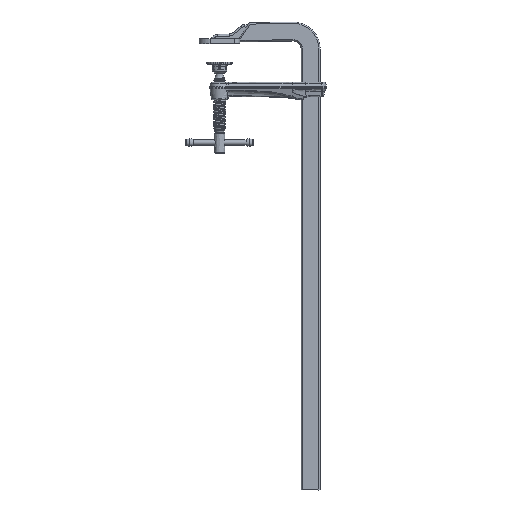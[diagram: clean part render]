
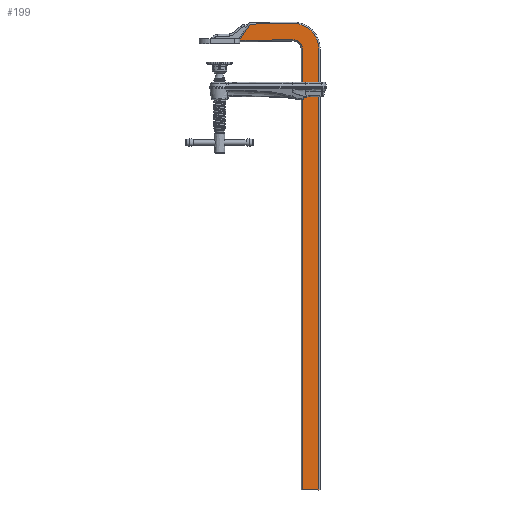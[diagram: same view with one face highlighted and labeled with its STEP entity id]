
A CAD part, front view. The second image highlights one B-rep face of the part: STEP entity #199.
In plain terms, the highlighted free-form (B-spline) face has degree [1, 1] with [2, 2] control points.
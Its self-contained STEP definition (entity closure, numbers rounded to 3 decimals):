
#123=CARTESIAN_POINT('',(-106.522,-5.5,-791.259));
#124=CARTESIAN_POINT('',(-106.522,-5.5,58.935));
#125=CARTESIAN_POINT('',(323.015,-5.5,-791.259));
#126=CARTESIAN_POINT('',(323.015,-5.5,58.935));
#127=B_SPLINE_SURFACE_WITH_KNOTS('',1,1,((#123,#124),(#125,#126)),.PLANE_SURF.,.F.,.F.,.U.,(2,2),(2,2),(0.,1.),(-0.979,1.),.UNSPECIFIED.);
#128=CARTESIAN_POINT('',(-86.998,-5.5,13.411));
#129=VERTEX_POINT('',#128);
#130=CARTESIAN_POINT('',(-8.93,-5.5,13.411));
#131=VERTEX_POINT('',#130);
#132=CARTESIAN_POINT('',(-86.998,-5.5,13.411));
#133=CARTESIAN_POINT('',(-8.93,-5.5,13.411));
#134=B_SPLINE_CURVE_WITH_KNOTS('',1,(#132,#133),.POLYLINE_FORM.,.F.,.U.,(2,2),(0.,1.),.UNSPECIFIED.);
#135=EDGE_CURVE('',#129,#131,#134,.T.);
#136=ORIENTED_EDGE('',*,*,#135,.T.);
#137=CARTESIAN_POINT('',(5.068,-5.5,-0.834));
#138=VERTEX_POINT('',#137);
#139=CARTESIAN_POINT('',(-8.93,-5.5,13.411));
#140=CARTESIAN_POINT('',(-3.059,-5.5,13.411));
#141=CARTESIAN_POINT('',(1.056,-5.5,9.224));
#142=CARTESIAN_POINT('',(5.171,-5.5,5.036));
#143=CARTESIAN_POINT('',(5.068,-5.5,-0.834));
#144=(BOUNDED_CURVE()B_SPLINE_CURVE(2,(#139,#140,#141,#142,#143),.CIRCULAR_ARC.,.F.,.U.)B_SPLINE_CURVE_WITH_KNOTS((3,2,3),(0.,0.5,1.),.UNSPECIFIED.)CURVE()GEOMETRIC_REPRESENTATION_ITEM()RATIONAL_B_SPLINE_CURVE((1.,0.922,1.,0.922,1.))REPRESENTATION_ITEM(''));
#145=EDGE_CURVE('',#131,#138,#144,.T.);
#146=ORIENTED_EDGE('',*,*,#145,.T.);
#147=CARTESIAN_POINT('',(-6.273,-5.5,-650.578));
#148=VERTEX_POINT('',#147);
#149=CARTESIAN_POINT('',(5.068,-5.5,-0.834));
#150=CARTESIAN_POINT('',(-6.273,-5.5,-650.578));
#151=B_SPLINE_CURVE_WITH_KNOTS('',1,(#149,#150),.POLYLINE_FORM.,.F.,.U.,(2,2),(0.,0.823),.UNSPECIFIED.);
#152=EDGE_CURVE('',#138,#148,#151,.T.);
#153=ORIENTED_EDGE('',*,*,#152,.T.);
#154=CARTESIAN_POINT('',(17.723,-5.5,-650.997));
#155=VERTEX_POINT('',#154);
#156=CARTESIAN_POINT('',(-6.273,-5.5,-650.578));
#157=CARTESIAN_POINT('',(17.723,-5.5,-650.997));
#158=B_SPLINE_CURVE_WITH_KNOTS('',1,(#156,#157),.POLYLINE_FORM.,.F.,.U.,(2,2),(0.233,0.289),.UNSPECIFIED.);
#159=EDGE_CURVE('',#148,#155,#158,.T.);
#160=ORIENTED_EDGE('',*,*,#159,.T.);
#161=CARTESIAN_POINT('',(29.064,-5.5,-1.252));
#162=VERTEX_POINT('',#161);
#163=CARTESIAN_POINT('',(17.723,-5.5,-650.997));
#164=CARTESIAN_POINT('',(29.064,-5.5,-1.252));
#165=B_SPLINE_CURVE_WITH_KNOTS('',1,(#163,#164),.POLYLINE_FORM.,.F.,.U.,(2,2),(0.177,1.),.UNSPECIFIED.);
#166=EDGE_CURVE('',#155,#162,#165,.T.);
#167=ORIENTED_EDGE('',*,*,#166,.T.);
#168=CARTESIAN_POINT('',(-8.93,-5.5,37.411));
#169=VERTEX_POINT('',#168);
#170=CARTESIAN_POINT('',(29.064,-5.5,-1.252));
#171=CARTESIAN_POINT('',(29.343,-5.5,14.68));
#172=CARTESIAN_POINT('',(18.174,-5.5,26.045));
#173=CARTESIAN_POINT('',(7.005,-5.5,37.411));
#174=CARTESIAN_POINT('',(-8.93,-5.5,37.411));
#175=(BOUNDED_CURVE()B_SPLINE_CURVE(2,(#170,#171,#172,#173,#174),.CIRCULAR_ARC.,.F.,.U.)B_SPLINE_CURVE_WITH_KNOTS((3,2,3),(0.,0.5,1.),.UNSPECIFIED.)CURVE()GEOMETRIC_REPRESENTATION_ITEM()RATIONAL_B_SPLINE_CURVE((1.,0.922,1.,0.922,1.))REPRESENTATION_ITEM(''));
#176=EDGE_CURVE('',#162,#169,#175,.T.);
#177=ORIENTED_EDGE('',*,*,#176,.T.);
#178=CARTESIAN_POINT('',(-71.571,-5.5,37.411));
#179=VERTEX_POINT('',#178);
#180=CARTESIAN_POINT('',(-8.93,-5.5,37.411));
#181=CARTESIAN_POINT('',(-71.571,-5.5,37.411));
#182=B_SPLINE_CURVE_WITH_KNOTS('',1,(#180,#181),.POLYLINE_FORM.,.F.,.U.,(2,2),(0.,0.787),.UNSPECIFIED.);
#183=EDGE_CURVE('',#169,#179,#182,.T.);
#184=ORIENTED_EDGE('',*,*,#183,.T.);
#185=CARTESIAN_POINT('',(-86.998,-5.5,14.42));
#186=VERTEX_POINT('',#185);
#187=CARTESIAN_POINT('',(-71.571,-5.5,37.411));
#188=CARTESIAN_POINT('',(-86.998,-5.5,14.42));
#189=B_SPLINE_CURVE_WITH_KNOTS('',1,(#187,#188),.POLYLINE_FORM.,.F.,.U.,(2,2),(0.035,0.937),.UNSPECIFIED.);
#190=EDGE_CURVE('',#179,#186,#189,.T.);
#191=ORIENTED_EDGE('',*,*,#190,.T.);
#192=CARTESIAN_POINT('',(-86.998,-5.5,14.42));
#193=CARTESIAN_POINT('',(-86.998,-5.5,13.411));
#194=B_SPLINE_CURVE_WITH_KNOTS('',1,(#192,#193),.POLYLINE_FORM.,.F.,.U.,(2,2),(0.544,0.697),.UNSPECIFIED.);
#195=EDGE_CURVE('',#186,#129,#194,.T.);
#196=ORIENTED_EDGE('',*,*,#195,.T.);
#197=EDGE_LOOP('',(#136,#146,#153,#160,#167,#177,#184,#191,#196));
#198=FACE_OUTER_BOUND('',#197,.T.);
#199=ADVANCED_FACE('',(#198),#127,.T.);
